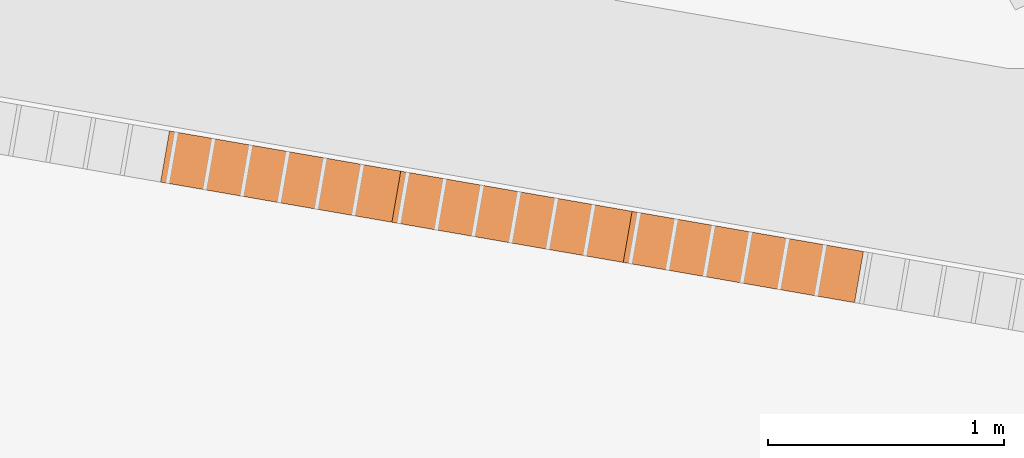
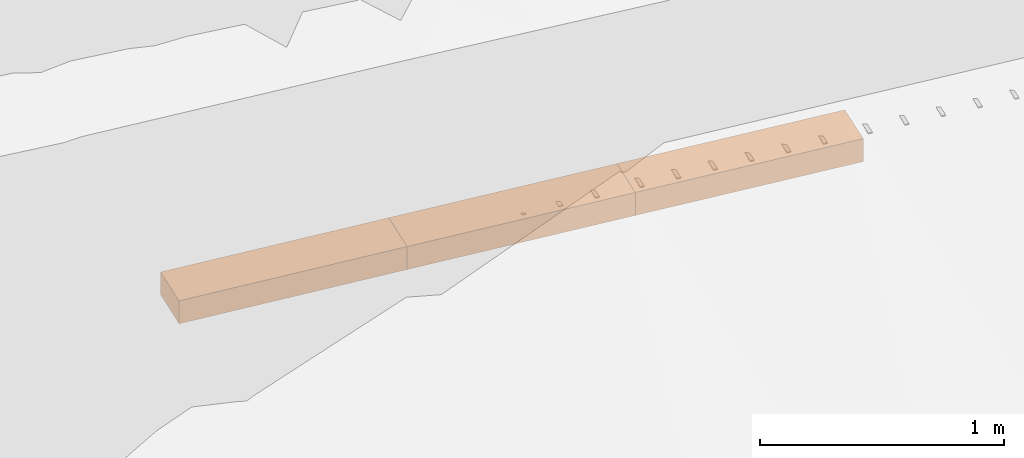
# Not in any storey, part 23 of 33: 3 proxies.
"""IFC4 model written with IfcOpenShell, lengths in metres."""

from ifc_helpers import new_model, si_unit, direction, frame, origin_with_axes, place, context, subcontext, project, spatial, polygons, material, element, save


model = new_model("IFC4")

# Units and contexts
model_context = context("Model", 3, precision=1e-05, world=origin_with_axes(), true_north=direction((0.0, 1.0)))
body_context = subcontext(model_context, "Body", "Model", "MODEL_VIEW")
ifc_project = project(units=[si_unit("LENGTHUNIT", "METRE"), si_unit("AREAUNIT", "SQUARE_METRE"), si_unit("VOLUMEUNIT", "CUBIC_METRE")], contexts=[model_context])

# Site
site_placement = place(None, origin_with_axes())
site = spatial("IfcSite", under=ifc_project, at=site_placement, Name="Lares · Rua das Mercês · artigo 4771")

# Proxies
ifc_material = material(Name="Brita drenante", Category="stone")
proxy_1_placement = place(site_placement, frame((0.0, 0.0, 0.0), z_axis=(0.0, 0.0, 1.0), x_axis=(1.0, -1.03767253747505e-17, 0.0)))
element("IfcBuildingElementProxy", 1, at=proxy_1_placement, inside=site, material=ifc_material, Name="Acesso · dreno lateral raso · leito drenante", ObjectType="Acesso · dreno lateral raso · leito drenante", PredefinedType="USERDEFINED", context=body_context, shape_type="Tessellation", body=[
    polygons([(50.8128154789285, 10.9597888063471, 14.8024229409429), (50.8504682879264, 11.1765427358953, 14.8024229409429), (51.8313421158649, 11.0061529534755, 14.833814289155), (51.7936893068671, 10.7893990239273, 14.833814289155), (50.8128154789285, 10.9597888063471, 14.9174229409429), (50.8504682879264, 11.1765427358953, 14.9174229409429), (51.8313421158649, 11.0061529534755, 14.948814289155), (51.7936893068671, 10.7893990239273, 14.948814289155)], [[[4, 3, 2, 1]], [[5, 6, 7, 8]], [[1, 2, 6, 5]], [[2, 3, 7, 6]], [[3, 4, 8, 7]], [[4, 1, 5, 8]]]),
])
proxy_2_placement = place(site_placement, frame((0.0, 0.0, 0.0), z_axis=(0.0, 0.0, 1.0), x_axis=(1.0, -1.03767253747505e-17, 0.0)))
element("IfcBuildingElementProxy", 2, at=proxy_2_placement, inside=site, material=ifc_material, Name="Acesso · dreno lateral raso · leito drenante", ObjectType="Acesso · dreno lateral raso · leito drenante", PredefinedType="USERDEFINED", context=body_context, shape_type="Tessellation", body=[
    polygons([(51.7936893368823, 10.7893990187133, 14.833814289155), (51.8313420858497, 11.0061529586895, 14.833814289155), (52.812219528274, 10.8357628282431, 14.8641974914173), (52.7745667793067, 10.6190088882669, 14.8641974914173), (51.7936893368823, 10.7893990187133, 14.948814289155), (51.8313420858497, 11.0061529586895, 14.948814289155), (52.812219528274, 10.8357628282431, 14.9791974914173), (52.7745667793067, 10.6190088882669, 14.9791974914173)], [[[4, 3, 2, 1]], [[5, 6, 7, 8]], [[1, 2, 6, 5]], [[2, 3, 7, 6]], [[3, 4, 8, 7]], [[4, 1, 5, 8]]]),
])
proxy_3_placement = place(site_placement, frame((0.0, 0.0, 0.0), z_axis=(0.0, 0.0, 1.0), x_axis=(1.0, -1.03767253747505e-17, 0.0)))
element("IfcBuildingElementProxy", 3, at=proxy_3_placement, inside=site, material=ifc_material, Name="Acesso · dreno lateral raso · leito drenante", ObjectType="Acesso · dreno lateral raso · leito drenante", PredefinedType="USERDEFINED", context=body_context, shape_type="Tessellation", body=[
    polygons([(52.7745668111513, 10.6190088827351, 14.8641974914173), (52.8122194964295, 10.8357628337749, 14.8641974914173), (53.7931006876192, 10.6653723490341, 14.8935725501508), (53.755448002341, 10.4486183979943, 14.8935725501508), (52.7745668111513, 10.6190088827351, 14.9791974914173), (52.8122194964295, 10.8357628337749, 14.9791974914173), (53.7931006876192, 10.6653723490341, 15.0085725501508), (53.755448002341, 10.4486183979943, 15.0085725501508)], [[[4, 3, 2, 1]], [[5, 6, 7, 8]], [[1, 2, 6, 5]], [[2, 3, 7, 6]], [[3, 4, 8, 7]], [[4, 1, 5, 8]]]),
])

save(model, "model.ifc")
